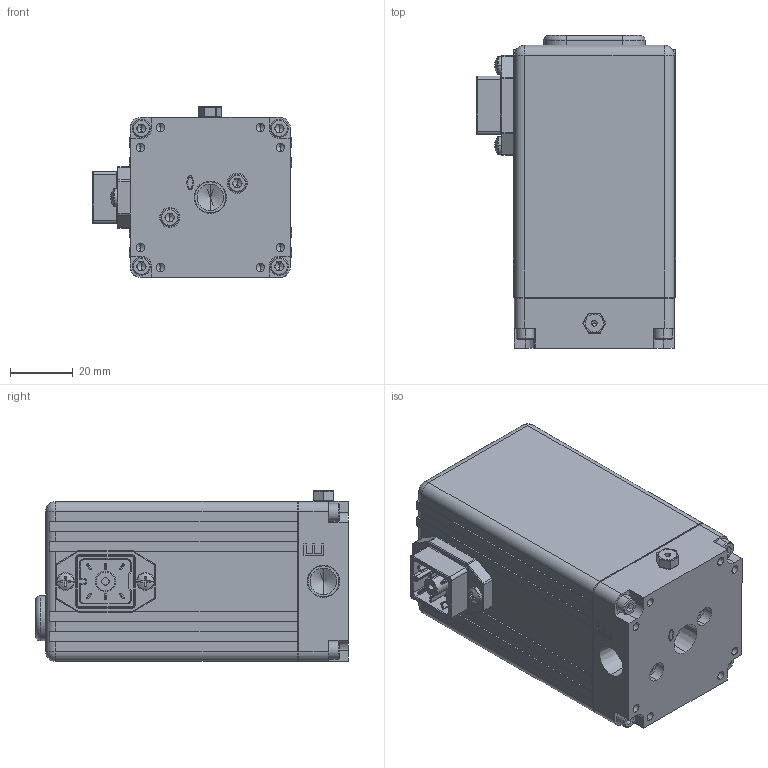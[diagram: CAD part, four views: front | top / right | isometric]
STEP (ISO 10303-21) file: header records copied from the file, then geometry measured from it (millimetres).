
FILE_DESCRIPTION (( 'STEP AP214' ), '1' );
FILE_NAME ('QPV1_X_BL_EMAIL-A.STEP', '2015-11-30T17:26:16', ( '' ), ( '' ), 'SwSTEP 2.0', 'SolidWorks 2016', '' );
FILE_SCHEMA (( 'AUTOMOTIVE_DESIGN' ));
Length unit declared in the file: inch
Products named in the file (10): socket head cap screw_ai_HX-SHCS 0.138-32x0.5x0.5-N; pan cross head_ai_CR-PHMS 0.112-40x0.3125x0.3125-N; 6PINHRSCH; H3053-B; M3050-C; M37002BL-EMAIL; QPV1_X_BL_EMAIL-A; QPV-BLEED; H1368; socket head cap screw_ai_HX-SHCS 0.138-40x0.4375x0.4375-N
Assembly tree (14 placements, depth 2):
  QPV1_X_BL_EMAIL-A
    M37002BL-EMAIL
    M3050-C
    H3053-B
    6PINHRSCH
    pan cross head_ai_CR-PHMS 0.112-40x0.3125x0.3125-N  x2
    socket head cap screw_ai_HX-SHCS 0.138-32x0.5x0.5-N  x4
    socket head cap screw_ai_HX-SHCS 0.138-40x0.4375x0.4375-N  x2
    H1368
    QPV-BLEED
Bounding box: 63.25 x 99.44 x 54.24 mm (x, y, z)
Volume: 84828.3 mm3; surface area: 55181.1 mm2
Topology: 14 solids, 14 shells, 847 faces, 2051 edges, 1216 vertices
Faces by surface type: plane 360, cylinder 298, cone 82, sphere 43, torus 42, bspline 22
Entity records: 24475 total; most frequent: CARTESIAN_POINT 4910, DIRECTION 3737, ORIENTED_EDGE 3392, EDGE_CURVE 1696, AXIS2_PLACEMENT_3D 1377, VERTEX_POINT 1050, LINE 983, VECTOR 983
